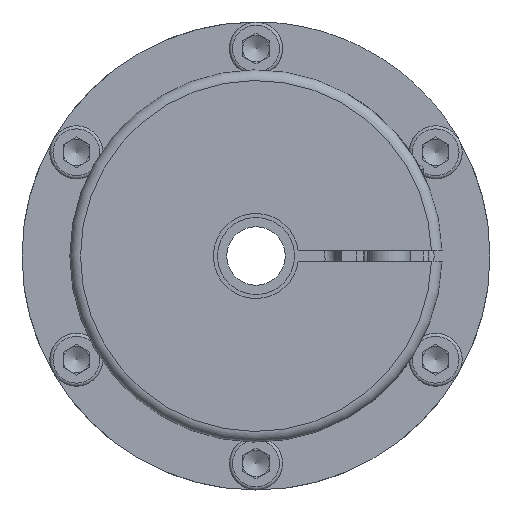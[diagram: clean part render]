
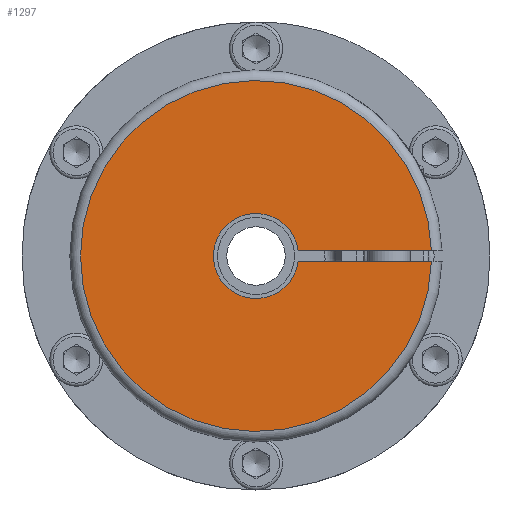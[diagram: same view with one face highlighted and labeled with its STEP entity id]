
A CAD part, left-side view. The second image highlights one B-rep face of the part: STEP entity #1297.
In plain terms, the highlighted planar face has unit normal (-1, 0, 0).
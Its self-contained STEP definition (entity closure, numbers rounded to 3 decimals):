
#1297 = ADVANCED_FACE( '', ( #2840 ), #2841, .T. );
#2840 = FACE_OUTER_BOUND( '', #4483, .T. );
#2841 = PLANE( '', #4484 );
#4483 = EDGE_LOOP( '', ( #8263, #8264, #8265, #8266 ) );
#4484 = AXIS2_PLACEMENT_3D( '', #8267, #8268, #8269 );
#8263 = ORIENTED_EDGE( '', *, *, #10216, .T. );
#8264 = ORIENTED_EDGE( '', *, *, #9825, .F. );
#8265 = ORIENTED_EDGE( '', *, *, #10034, .T. );
#8266 = ORIENTED_EDGE( '', *, *, #10250, .T. );
#8267 = CARTESIAN_POINT( '', ( -54.05, 0., 7.5 ) );
#8268 = DIRECTION( '', ( -1., 0., 0. ) );
#8269 = DIRECTION( '', ( 0., 0., 1. ) );
#9825 = EDGE_CURVE( '', #12027, #12028, #12029, .T. );
#10034 = EDGE_CURVE( '', #12027, #12306, #12308, .T. );
#10216 = EDGE_CURVE( '', #12545, #12028, #12546, .T. );
#10250 = EDGE_CURVE( '', #12306, #12545, #12585, .T. );
#12027 = VERTEX_POINT( '', #16414 );
#12028 = VERTEX_POINT( '', #16415 );
#12029 = CIRCLE( '', #16416, 8. );
#12306 = VERTEX_POINT( '', #17081 );
#12308 = LINE( '', #17096, #17097 );
#12545 = VERTEX_POINT( '', #17646 );
#12546 = LINE( '', #17647, #17648 );
#12585 = CIRCLE( '', #17741, 33. );
#16414 = CARTESIAN_POINT( '', ( -54.05, -7.937, 1. ) );
#16415 = CARTESIAN_POINT( '', ( -54.05, -7.937, -1. ) );
#16416 = AXIS2_PLACEMENT_3D( '', #19338, #19339, #19340 );
#17081 = CARTESIAN_POINT( '', ( -54.05, -32.985, 1. ) );
#17096 = CARTESIAN_POINT( '', ( -54.05, -7.433, 1. ) );
#17097 = VECTOR( '', #19629, 1000. );
#17646 = CARTESIAN_POINT( '', ( -54.05, -32.985, -1. ) );
#17647 = CARTESIAN_POINT( '', ( -54.05, -34.986, -1. ) );
#17648 = VECTOR( '', #19816, 1000. );
#17741 = AXIS2_PLACEMENT_3D( '', #19849, #19850, #19851 );
#19338 = CARTESIAN_POINT( '', ( -54.05, 0., 0. ) );
#19339 = DIRECTION( '', ( -1., 0., 0. ) );
#19340 = DIRECTION( '', ( 0., -1., 0. ) );
#19629 = DIRECTION( '', ( 0., -1., 0. ) );
#19816 = DIRECTION( '', ( 0., 1., 0. ) );
#19849 = CARTESIAN_POINT( '', ( -54.05, 0., 0. ) );
#19850 = DIRECTION( '', ( -1., 0., 0. ) );
#19851 = DIRECTION( '', ( 0., 0., 1. ) );
